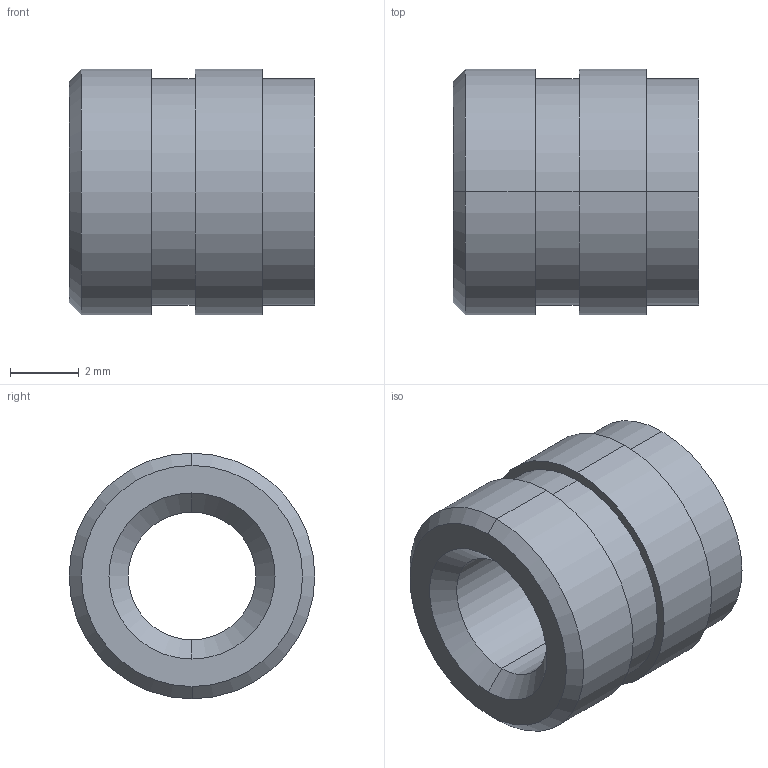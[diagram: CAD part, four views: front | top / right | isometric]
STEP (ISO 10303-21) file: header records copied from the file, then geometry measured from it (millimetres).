
FILE_DESCRIPTION(('starvars output'),'2;1');
FILE_NAME('cv20190724093757000012517.stp','09:37:57 2019/07/24',( 'Thomas Industrial Network Germany GmbH'),( 'Thomas Industrial Network Germany GmbH'),'unknown preprocess','ACIS' ,'unknown authorization');
FILE_SCHEMA(('AUTOMOTIVE_DESIGN_CC2 {UNKNOWN IMPLEMENTATION LEVEL}'));
Length unit declared in the file: millimetre
Products named in the file (1): PRODUCT_ID_1
Bounding box: 7.14 x 7.14 x 7.14 mm (x, y, z)
Volume: 186.3 mm3; surface area: 297.1 mm2
Topology: 1 solids, 1 shells, 21 faces, 42 edges, 26 vertices
Faces by surface type: cylinder 10, cone 6, plane 5
Entity records: 704 total; most frequent: ORIENTED_EDGE 84, CARTESIAN_POINT 68, DIRECTION 68, EDGE_CURVE 42, VERTEX_POINT 26, AXIS2_PLACEMENT_3D 26, EDGE_LOOP 26, FACE_BOUND 26
